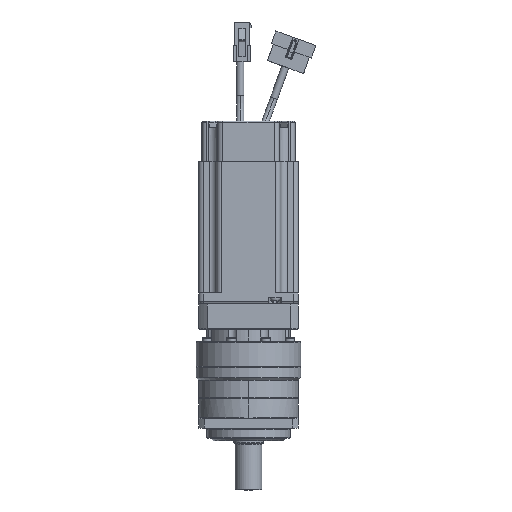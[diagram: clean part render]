
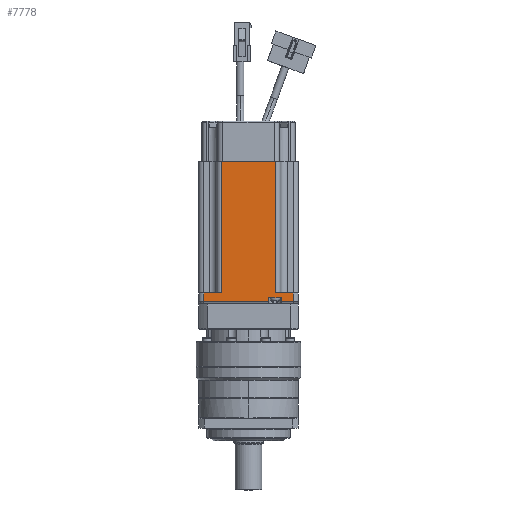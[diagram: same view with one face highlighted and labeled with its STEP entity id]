
A CAD part, front view. The second image highlights one B-rep face of the part: STEP entity #7778.
In plain terms, the highlighted planar face has unit normal (0, -1, 0) as drawn and (0, 1, 0) by its records, which use the part's own axes.
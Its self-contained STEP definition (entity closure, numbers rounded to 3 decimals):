
#3596 = CARTESIAN_POINT ( 'NONE',  ( 78.476, 215.692, -127. ) ) ;
#3603 = CARTESIAN_POINT ( 'NONE',  ( 45.876, 215.692, -127. ) ) ;
#3625 = CARTESIAN_POINT ( 'NONE',  ( 78.476, 215.692, -205.7 ) ) ;
#3628 = CARTESIAN_POINT ( 'NONE',  ( 49.976, 215.692, -208.5 ) ) ;
#3632 = CARTESIAN_POINT ( 'NONE',  ( 49.976, 215.692, -211. ) ) ;
#3635 = CARTESIAN_POINT ( 'NONE',  ( 42.576, 215.692, -211. ) ) ;
#3698 = CARTESIAN_POINT ( 'NONE',  ( 35.176, 215.692, -205.7 ) ) ;
#3706 = CARTESIAN_POINT ( 'NONE',  ( 42.576, 215.692, -208.5 ) ) ;
#3708 = CARTESIAN_POINT ( 'NONE',  ( 45.876, 215.692, -205.7 ) ) ;
#3717 = CARTESIAN_POINT ( 'NONE',  ( 89.176, 215.692, -205.7 ) ) ;
#3746 = CARTESIAN_POINT ( 'NONE',  ( 35.176, 215.692, -211. ) ) ;
#3791 = CARTESIAN_POINT ( 'NONE',  ( 89.176, 215.692, -211. ) ) ;
#7648 = EDGE_CURVE ( 'NONE', #39811, #40103, #25865, .T. ) ;
#7653 = EDGE_CURVE ( 'NONE', #40103, #40266, #25885, .T. ) ;
#7655 = EDGE_CURVE ( 'NONE', #40266, #39825, #25895, .T. ) ;
#7657 = EDGE_CURVE ( 'NONE', #39825, #39817, #25904, .T. ) ;
#7659 = EDGE_CURVE ( 'NONE', #39817, #40081, #25915, .T. ) ;
#7661 = EDGE_CURVE ( 'NONE', #40081, #39831, #25927, .T. ) ;
#7662 = EDGE_CURVE ( 'NONE', #39831, #40161, #25929, .T. ) ;
#7778 = ADVANCED_FACE ( 'NONE', ( #26404 ), #30826, .T. ) ;
#8450 = EDGE_CURVE ( 'NONE', #40065, #40085, #35003, .T. ) ;
#8452 = EDGE_CURVE ( 'NONE', #40161, #40065, #35012, .T. ) ;
#8523 = EDGE_CURVE ( 'NONE', #39746, #39811, #35136, .T. ) ;
#8525 = EDGE_CURVE ( 'NONE', #39762, #40085, #35140, .T. ) ;
#8526 = EDGE_CURVE ( 'NONE', #39746, #39762, #35141, .T. ) ;
#14161 = ORIENTED_EDGE ( 'NONE', *, *, #7662, .T. ) ;
#14164 = ORIENTED_EDGE ( 'NONE', *, *, #7661, .T. ) ;
#14167 = ORIENTED_EDGE ( 'NONE', *, *, #7659, .T. ) ;
#14170 = ORIENTED_EDGE ( 'NONE', *, *, #7657, .T. ) ;
#14174 = ORIENTED_EDGE ( 'NONE', *, *, #7655, .T. ) ;
#14176 = ORIENTED_EDGE ( 'NONE', *, *, #7653, .T. ) ;
#14179 = ORIENTED_EDGE ( 'NONE', *, *, #7648, .T. ) ;
#14182 = ORIENTED_EDGE ( 'NONE', *, *, #8523, .T. ) ;
#14184 = ORIENTED_EDGE ( 'NONE', *, *, #8526, .F. ) ;
#14186 = ORIENTED_EDGE ( 'NONE', *, *, #8525, .F. ) ;
#14190 = ORIENTED_EDGE ( 'NONE', *, *, #8450, .T. ) ;
#14193 = ORIENTED_EDGE ( 'NONE', *, *, #8452, .T. ) ;
#21381 = EDGE_LOOP ( 'NONE', ( #14193, #14190, #14186, #14184, #14182, #14179, #14176, #14174, #14170, #14167, #14164, #14161 ) ) ;
#25865 = LINE ( 'NONE', #28644, #25871 ) ;
#25871 = VECTOR ( 'NONE', #28645, 1000. ) ;
#25885 = LINE ( 'NONE', #28665, #25892 ) ;
#25892 = VECTOR ( 'NONE', #28666, 1000. ) ;
#25895 = LINE ( 'NONE', #28659, #25901 ) ;
#25901 = VECTOR ( 'NONE', #28660, 1000. ) ;
#25904 = LINE ( 'NONE', #28674, #25912 ) ;
#25912 = VECTOR ( 'NONE', #28675, 1000. ) ;
#25915 = LINE ( 'NONE', #28678, #25924 ) ;
#25924 = VECTOR ( 'NONE', #28679, 1000. ) ;
#25927 = LINE ( 'NONE', #28667, #25931 ) ;
#25929 = LINE ( 'NONE', #28683, #25937 ) ;
#25931 = VECTOR ( 'NONE', #28668, 1000. ) ;
#25937 = VECTOR ( 'NONE', #28684, 1000. ) ;
#26404 = FACE_OUTER_BOUND ( 'NONE', #21381, .T. ) ;
#28644 = CARTESIAN_POINT ( 'NONE',  ( 92.176, 215.692, -205.7 ) ) ;
#28645 = DIRECTION ( 'NONE',  ( 1., 0., 0. ) ) ;
#28659 = CARTESIAN_POINT ( 'NONE',  ( 92.176, 215.692, -211. ) ) ;
#28660 = DIRECTION ( 'NONE',  ( -1., 0., 0. ) ) ;
#28665 = CARTESIAN_POINT ( 'NONE',  ( 89.176, 215.692, -212. ) ) ;
#28666 = DIRECTION ( 'NONE',  ( 0., 0., -1. ) ) ;
#28667 = CARTESIAN_POINT ( 'NONE',  ( 42.576, 215.692, -212. ) ) ;
#28668 = DIRECTION ( 'NONE',  ( 0., 0., -1. ) ) ;
#28674 = CARTESIAN_POINT ( 'NONE',  ( 49.976, 215.692, -212. ) ) ;
#28675 = DIRECTION ( 'NONE',  ( 0., 0., 1. ) ) ;
#28678 = CARTESIAN_POINT ( 'NONE',  ( 92.176, 215.692, -208.5 ) ) ;
#28679 = DIRECTION ( 'NONE',  ( -1., 0., 0. ) ) ;
#28683 = CARTESIAN_POINT ( 'NONE',  ( 92.176, 215.692, -211. ) ) ;
#28684 = DIRECTION ( 'NONE',  ( -1., 0., 0. ) ) ;
#30069 = AXIS2_PLACEMENT_3D ( 'NONE', #30821, #30829, #30830 ) ;
#30821 = CARTESIAN_POINT ( 'NONE',  ( 92.176, 215.692, -212. ) ) ;
#30826 = PLANE ( 'NONE',  #30069 ) ;
#30829 = DIRECTION ( 'NONE',  ( 0., 1., 0. ) ) ;
#30830 = DIRECTION ( 'NONE',  ( 0., 0., 1. ) ) ;
#35003 = LINE ( 'NONE', #37230, #35011 ) ;
#35011 = VECTOR ( 'NONE', #37227, 1000. ) ;
#35012 = LINE ( 'NONE', #37229, #35014 ) ;
#35014 = VECTOR ( 'NONE', #37228, 1000. ) ;
#35136 = LINE ( 'NONE', #37396, #35139 ) ;
#35139 = VECTOR ( 'NONE', #37397, 1000. ) ;
#35140 = LINE ( 'NONE', #37389, #35142 ) ;
#35141 = LINE ( 'NONE', #37403, #35144 ) ;
#35142 = VECTOR ( 'NONE', #37390, 1000. ) ;
#35144 = VECTOR ( 'NONE', #37404, 1000. ) ;
#37227 = DIRECTION ( 'NONE',  ( 1., 0., 0. ) ) ;
#37228 = DIRECTION ( 'NONE',  ( 0., 0., 1. ) ) ;
#37229 = CARTESIAN_POINT ( 'NONE',  ( 35.176, 215.692, -212. ) ) ;
#37230 = CARTESIAN_POINT ( 'NONE',  ( 92.176, 215.692, -205.7 ) ) ;
#37389 = CARTESIAN_POINT ( 'NONE',  ( 45.876, 215.692, -205.7 ) ) ;
#37390 = DIRECTION ( 'NONE',  ( 0., 0., -1. ) ) ;
#37396 = CARTESIAN_POINT ( 'NONE',  ( 78.476, 215.692, -212. ) ) ;
#37397 = DIRECTION ( 'NONE',  ( 0., 0., -1. ) ) ;
#37403 = CARTESIAN_POINT ( 'NONE',  ( 0., 215.692, -127. ) ) ;
#37404 = DIRECTION ( 'NONE',  ( -1., 0., 0. ) ) ;
#39746 = VERTEX_POINT ( 'NONE', #3596 ) ;
#39762 = VERTEX_POINT ( 'NONE', #3603 ) ;
#39811 = VERTEX_POINT ( 'NONE', #3625 ) ;
#39817 = VERTEX_POINT ( 'NONE', #3628 ) ;
#39825 = VERTEX_POINT ( 'NONE', #3632 ) ;
#39831 = VERTEX_POINT ( 'NONE', #3635 ) ;
#40065 = VERTEX_POINT ( 'NONE', #3698 ) ;
#40081 = VERTEX_POINT ( 'NONE', #3706 ) ;
#40085 = VERTEX_POINT ( 'NONE', #3708 ) ;
#40103 = VERTEX_POINT ( 'NONE', #3717 ) ;
#40161 = VERTEX_POINT ( 'NONE', #3746 ) ;
#40266 = VERTEX_POINT ( 'NONE', #3791 ) ;
